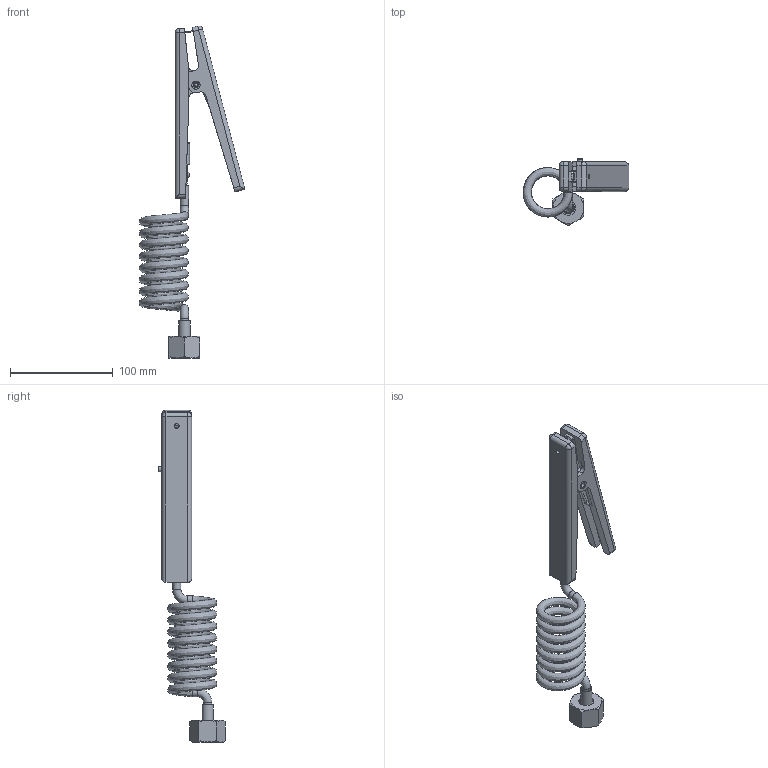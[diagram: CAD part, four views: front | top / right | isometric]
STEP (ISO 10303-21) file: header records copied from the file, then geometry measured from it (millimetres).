
FILE_DESCRIPTION(('STEP AP214'), '1');
FILE_NAME('Ñïèðàëü è Çàæèì ïëàñòèêîâûé', '', ('UNSPECIFIED'), ('UNSPECIFIED'), 'ASCON STEP Converter 1.6', 'ASCON Math Kernel', '');
FILE_SCHEMA(('AUTOMOTIVE_DESIGN { 1 0 10303 214 3 1 1}'));
Length unit declared in the file: millimetre
Products named in the file (14): СЕНС.713341.047; СЕНС.716341.001; СЕНС.713161.077; СЕНС.421331.007; СЕНС.753713.009; СЕНС.741124.497; СЕНС.753651.012; СЕНС.713141.256; СЕНС.741124.863
Assembly tree (16 placements, depth 3):
  (unnamed)
    (unnamed)
    СЕНС.713341.047
    СЕНС.716341.001  x2
    СЕНС.713161.077
    СЕНС.421331.007
      СЕНС.753713.009
      СЕНС.741124.497  x2
      СЕНС.753651.012
      (unnamed)
      СЕНС.753713.009
    СЕНС.713141.256
    СЕНС.741124.863
    (unnamed)  x2
Bounding box: 102.76 x 65.07 x 322.55 mm (x, y, z)
Volume: 155798.6 mm3; surface area: 76816.5 mm2
Topology: 15 solids, 15 shells, 281 faces, 675 edges, 431 vertices
Faces by surface type: plane 153, cylinder 75, cone 33, bspline 8, sphere 6, torus 5, revolution 1
Full cylindrical faces by diameter (mm): 2 x2, 2.4 x4, 2.9 x2, 3.502 x1, 4 x2, 4.5 x6, 5 x5, 5.6 x2, 6.5 x2, 8 x4, 8.2 x2, 10 x3, 11 x1, 14.5 x1, 20 x1, 22.16 x1
Entity records: 16348 total; most frequent: CARTESIAN_POINT 9237, DIRECTION 1088, ORIENTED_EDGE 968, EDGE_CURVE 484, AXIS2_PLACEMENT_3D 415, VERTEX_POINT 340, EDGE_LOOP 318, LINE 257
